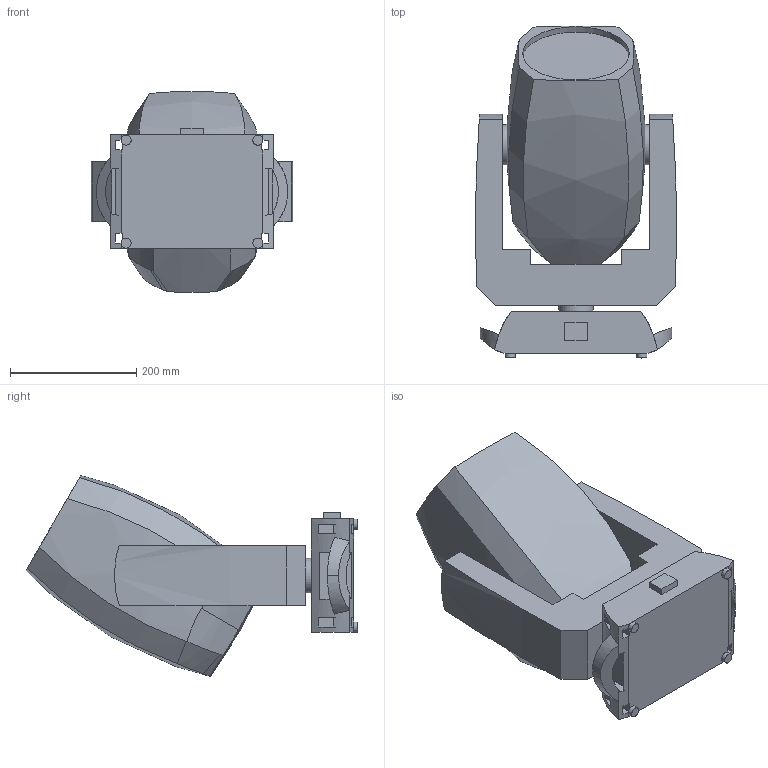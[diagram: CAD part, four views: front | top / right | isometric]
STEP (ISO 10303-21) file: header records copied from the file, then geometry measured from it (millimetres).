
FILE_DESCRIPTION(/* description */ (''),/* implementation_level */ '2;1');
FILE_NAME(/* name */ 'C:\Users\dgooch\Documents\!!CADENG\PRO\ROGUE Outcast 1L Beam\CAD Blocks\Rogue Outcast 1LBeam_30.stp',/* time_stamp */ '2022-06-07T15:43:46-04:00',/* author */ ('dgooch'),/* organization */ (''),/* preprocessor_version */ 'ST-DEVELOPER v19',/* originating_system */ 'Autodesk Inventor 2023',/* authorisation */ '');
FILE_SCHEMA (('AUTOMOTIVE_DESIGN { 1 0 10303 214 3 1 1 }'));
Length unit declared in the file: millimetre
Products named in the file (4): Rogue Outcast 1LBeam; Base; Arm; Head
Assembly tree (3 placements, depth 2):
  Rogue Outcast 1LBeam
    Base
    Arm
    Head
Bounding box: 318.98 x 526.04 x 318.56 mm (x, y, z)
Volume: 19687578.6 mm3; surface area: 720124.3 mm2
Topology: 3 solids, 3 shells, 116 faces, 318 edges, 208 vertices
Faces by surface type: plane 69, cylinder 25, bspline 12, sphere 6, cone 4
Full cylindrical faces by diameter (mm): 16 x4, 55 x2, 64 x4, 169.189 x1
Entity records: 5532 total; most frequent: CARTESIAN_POINT 2466, ORIENTED_EDGE 636, DIRECTION 571, EDGE_CURVE 318, VERTEX_POINT 208, AXIS2_PLACEMENT_3D 200, LINE 171, VECTOR 171
